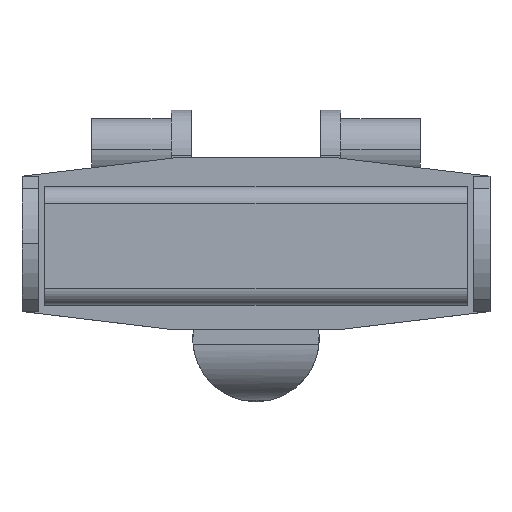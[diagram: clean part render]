
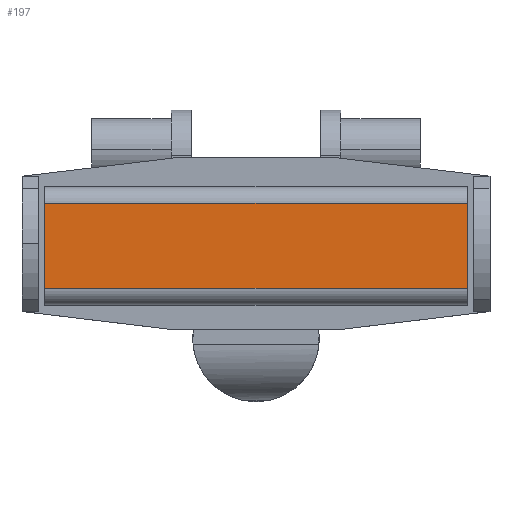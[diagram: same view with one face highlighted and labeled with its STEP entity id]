
A CAD part, top view. The second image highlights one B-rep face of the part: STEP entity #197.
In plain terms, the highlighted planar face has unit normal (0, 0, 1).
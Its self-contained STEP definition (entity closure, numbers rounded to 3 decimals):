
#50 = EDGE_LOOP ( 'NONE', ( #2707, #2896, #3759, #4157 ) ) ;
#110 = CARTESIAN_POINT ( 'NONE',  ( -18.125, 36.615, 72.5 ) ) ;
#123 = CARTESIAN_POINT ( 'NONE',  ( -18.125, 37.615, 72.5 ) ) ;
#142 = LINE ( 'NONE', #4099, #1884 ) ;
#187 = EDGE_CURVE ( 'NONE', #1920, #3010, #979, .T. ) ;
#197 = ADVANCED_FACE ( 'NONE', ( #2410 ), #3305, .F. ) ;
#228 = DIRECTION ( 'NONE',  ( -1., 0., 0. ) ) ;
#504 = VECTOR ( 'NONE', #1274, 1000. ) ;
#671 = CARTESIAN_POINT ( 'NONE',  ( -18.125, 21.615, 72.5 ) ) ;
#828 = VECTOR ( 'NONE', #3949, 1000. ) ;
#979 = LINE ( 'NONE', #3937, #828 ) ;
#1132 = CARTESIAN_POINT ( 'NONE',  ( -93.125, 36.615, 72.5 ) ) ;
#1274 = DIRECTION ( 'NONE',  ( 0., 1., 0. ) ) ;
#1315 = LINE ( 'NONE', #3538, #504 ) ;
#1629 = EDGE_CURVE ( 'NONE', #4129, #1920, #1315, .T. ) ;
#1884 = VECTOR ( 'NONE', #228, 1000. ) ;
#1920 = VERTEX_POINT ( 'NONE', #1132 ) ;
#2106 = EDGE_CURVE ( 'NONE', #3480, #4129, #142, .T. ) ;
#2367 = AXIS2_PLACEMENT_3D ( 'NONE', #110, #2442, #3001 ) ;
#2410 = FACE_OUTER_BOUND ( 'NONE', #50, .T. ) ;
#2442 = DIRECTION ( 'NONE',  ( 0., 0., -1. ) ) ;
#2707 = ORIENTED_EDGE ( 'NONE', *, *, #2106, .F. ) ;
#2788 = LINE ( 'NONE', #123, #3693 ) ;
#2896 = ORIENTED_EDGE ( 'NONE', *, *, #3570, .F. ) ;
#3001 = DIRECTION ( 'NONE',  ( 0., 1., 0. ) ) ;
#3010 = VERTEX_POINT ( 'NONE', #3954 ) ;
#3285 = CARTESIAN_POINT ( 'NONE',  ( -93.125, 21.615, 72.5 ) ) ;
#3305 = PLANE ( 'NONE',  #2367 ) ;
#3480 = VERTEX_POINT ( 'NONE', #671 ) ;
#3538 = CARTESIAN_POINT ( 'NONE',  ( -93.125, 20.615, 72.5 ) ) ;
#3570 = EDGE_CURVE ( 'NONE', #3010, #3480, #2788, .T. ) ;
#3672 = DIRECTION ( 'NONE',  ( 0., -1., 0. ) ) ;
#3693 = VECTOR ( 'NONE', #3672, 1000. ) ;
#3759 = ORIENTED_EDGE ( 'NONE', *, *, #187, .F. ) ;
#3937 = CARTESIAN_POINT ( 'NONE',  ( -18.125, 36.615, 72.5 ) ) ;
#3949 = DIRECTION ( 'NONE',  ( 1., 0., 0. ) ) ;
#3954 = CARTESIAN_POINT ( 'NONE',  ( -18.125, 36.615, 72.5 ) ) ;
#4099 = CARTESIAN_POINT ( 'NONE',  ( -18.125, 21.615, 72.5 ) ) ;
#4129 = VERTEX_POINT ( 'NONE', #3285 ) ;
#4157 = ORIENTED_EDGE ( 'NONE', *, *, #1629, .F. ) ;
